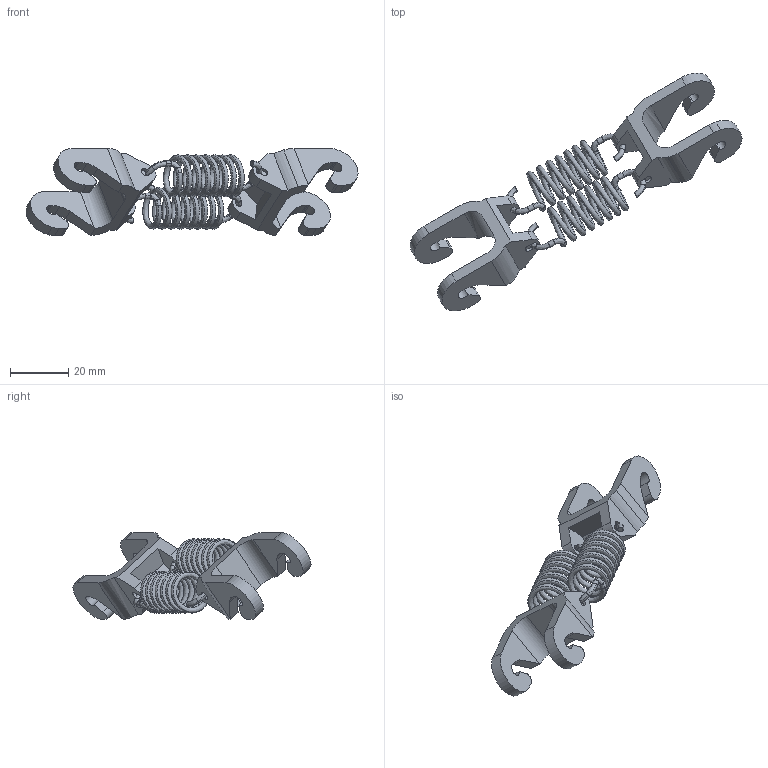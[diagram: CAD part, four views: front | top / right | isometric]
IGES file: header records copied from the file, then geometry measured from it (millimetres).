
Start section: SolidWorks IGES file using analytic representation for surfaces
Global section: file name: C:\Users\SELUHAA\OneDrive - ABB\Work items\609433\IRB360_8-1130-STD-4D_rev03\IRB360_8-1130-STD-4D_rev03_IGS_J\IRB360_8-1130-STD-4D_rev03_LA3_CL_CAD.igs; native system: SolidWorks 2022; preprocessor: SolidWorks 2022; author: SELUHAA; date: 250115.102630; units: millimetre
Bounding box: 114.05 x 81.77 x 29.88 mm (x, y, z)
Volume: 11802.8 mm3; surface area: 10699.5 mm2
Topology: 1 solids, 1 shells, 166 faces, 450 edges, 292 vertices
Faces by surface type: revolution 60, plane 54, bspline 52
